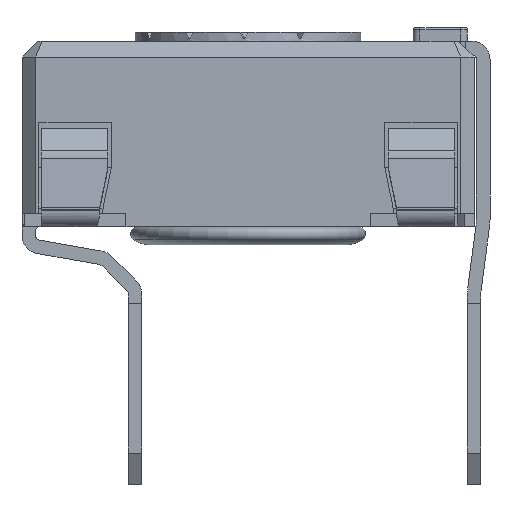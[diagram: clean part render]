
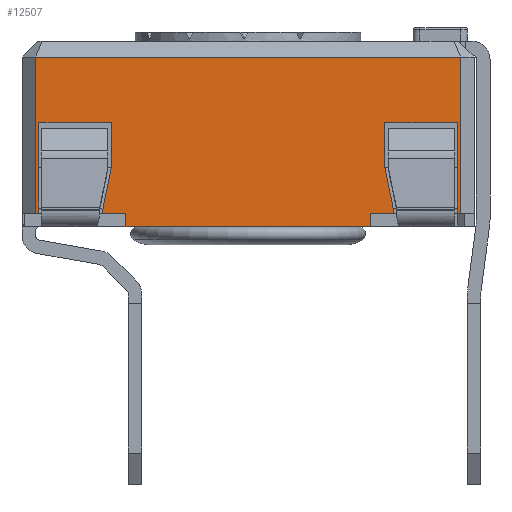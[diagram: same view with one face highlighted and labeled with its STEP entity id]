
A CAD part, left-side view. The second image highlights one B-rep face of the part: STEP entity #12507.
In plain terms, the highlighted planar face has unit normal (-1, 0, 0).
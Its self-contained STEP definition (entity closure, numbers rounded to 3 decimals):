
#995=FACE_OUTER_BOUND('',#1631,.T.);
#1631=EDGE_LOOP('',(#10403,#10404,#10405,#10406,#10407,#10408,#10409,#10410,
#10411,#10412,#10413,#10414,#10415,#10416,#10417,#10418,#10419,#10420));
#2495=LINE('',#18744,#3951);
#2526=LINE('',#18806,#3982);
#2532=LINE('',#18818,#3988);
#2553=LINE('',#18860,#4009);
#2721=LINE('',#19388,#4177);
#2764=LINE('',#19470,#4220);
#2767=LINE('',#19476,#4223);
#2916=LINE('',#19854,#4372);
#2918=LINE('',#19858,#4374);
#2922=LINE('',#19866,#4378);
#2925=LINE('',#19872,#4381);
#2932=LINE('',#19886,#4388);
#2934=LINE('',#19890,#4390);
#2940=LINE('',#19901,#4396);
#2941=LINE('',#19903,#4397);
#2942=LINE('',#19906,#4398);
#2943=LINE('',#19908,#4399);
#2944=LINE('',#19909,#4400);
#3951=VECTOR('',#15211,10.);
#3982=VECTOR('',#15246,10.);
#3988=VECTOR('',#15252,10.);
#4009=VECTOR('',#15275,10.);
#4177=VECTOR('',#15751,10.);
#4220=VECTOR('',#15826,10.);
#4223=VECTOR('',#15835,10.);
#4372=VECTOR('',#16202,10.);
#4374=VECTOR('',#16206,10.);
#4378=VECTOR('',#16212,10.);
#4381=VECTOR('',#16217,10.);
#4388=VECTOR('',#16232,10.);
#4390=VECTOR('',#16236,10.);
#4396=VECTOR('',#16248,10.);
#4397=VECTOR('',#16251,10.);
#4398=VECTOR('',#16254,10.);
#4399=VECTOR('',#16255,10.);
#4400=VECTOR('',#16256,10.);
#5296=VERTEX_POINT('',#18741);
#5297=VERTEX_POINT('',#18743);
#5325=VERTEX_POINT('',#18803);
#5326=VERTEX_POINT('',#18805);
#5331=VERTEX_POINT('',#18815);
#5332=VERTEX_POINT('',#18817);
#5351=VERTEX_POINT('',#18857);
#5352=VERTEX_POINT('',#18859);
#5503=VERTEX_POINT('',#19385);
#5504=VERTEX_POINT('',#19387);
#5623=VERTEX_POINT('',#19852);
#5624=VERTEX_POINT('',#19857);
#5627=VERTEX_POINT('',#19864);
#5629=VERTEX_POINT('',#19871);
#5632=VERTEX_POINT('',#19885);
#5633=VERTEX_POINT('',#19889);
#5636=VERTEX_POINT('',#19905);
#5637=VERTEX_POINT('',#19907);
#6736=EDGE_CURVE('',#5297,#5296,#2495,.T.);
#6767=EDGE_CURVE('',#5326,#5325,#2526,.T.);
#6773=EDGE_CURVE('',#5332,#5331,#2532,.T.);
#6794=EDGE_CURVE('',#5352,#5351,#2553,.T.);
#7040=EDGE_CURVE('',#5504,#5503,#2721,.T.);
#7083=EDGE_CURVE('',#5326,#5503,#2764,.T.);
#7086=EDGE_CURVE('',#5331,#5504,#2767,.T.);
#7272=EDGE_CURVE('',#5325,#5623,#2916,.T.);
#7274=EDGE_CURVE('',#5624,#5332,#2918,.T.);
#7278=EDGE_CURVE('',#5623,#5627,#2922,.T.);
#7281=EDGE_CURVE('',#5629,#5624,#2925,.T.);
#7288=EDGE_CURVE('',#5632,#5629,#2932,.T.);
#7290=EDGE_CURVE('',#5633,#5352,#2934,.T.);
#7296=EDGE_CURVE('',#5627,#5633,#2940,.T.);
#7297=EDGE_CURVE('',#5296,#5632,#2941,.T.);
#7298=EDGE_CURVE('',#5636,#5351,#2942,.T.);
#7299=EDGE_CURVE('',#5637,#5636,#2943,.T.);
#7300=EDGE_CURVE('',#5637,#5297,#2944,.T.);
#10403=ORIENTED_EDGE('',*,*,#7297,.T.);
#10404=ORIENTED_EDGE('',*,*,#7288,.T.);
#10405=ORIENTED_EDGE('',*,*,#7281,.T.);
#10406=ORIENTED_EDGE('',*,*,#7274,.T.);
#10407=ORIENTED_EDGE('',*,*,#6773,.T.);
#10408=ORIENTED_EDGE('',*,*,#7086,.T.);
#10409=ORIENTED_EDGE('',*,*,#7040,.T.);
#10410=ORIENTED_EDGE('',*,*,#7083,.F.);
#10411=ORIENTED_EDGE('',*,*,#6767,.T.);
#10412=ORIENTED_EDGE('',*,*,#7272,.T.);
#10413=ORIENTED_EDGE('',*,*,#7278,.T.);
#10414=ORIENTED_EDGE('',*,*,#7296,.T.);
#10415=ORIENTED_EDGE('',*,*,#7290,.T.);
#10416=ORIENTED_EDGE('',*,*,#6794,.T.);
#10417=ORIENTED_EDGE('',*,*,#7298,.F.);
#10418=ORIENTED_EDGE('',*,*,#7299,.F.);
#10419=ORIENTED_EDGE('',*,*,#7300,.T.);
#10420=ORIENTED_EDGE('',*,*,#6736,.T.);
#11670=PLANE('',#13415);
#12507=ADVANCED_FACE('',(#995),#11670,.T.);
#13415=AXIS2_PLACEMENT_3D('',#19904,#16252,#16253);
#15211=DIRECTION('',(0.,-1.,0.));
#15246=DIRECTION('',(0.,-1.,0.));
#15252=DIRECTION('',(0.,-1.,0.));
#15275=DIRECTION('',(0.,-1.,0.));
#15751=DIRECTION('',(0.,-1.,0.));
#15826=DIRECTION('',(0.,0.,-1.));
#15835=DIRECTION('',(0.,0.,-1.));
#16202=DIRECTION('',(0.,0.199,0.98));
#16206=DIRECTION('',(0.,0.199,-0.98));
#16212=DIRECTION('',(0.,0.,1.));
#16217=DIRECTION('',(0.,0.,-1.));
#16232=DIRECTION('',(0.,-1.,0.));
#16236=DIRECTION('',(0.,0.,-1.));
#16248=DIRECTION('',(0.,-1.,0.));
#16251=DIRECTION('',(0.,0.,1.));
#16252=DIRECTION('center_axis',(-1.,0.,0.));
#16253=DIRECTION('ref_axis',(0.,0.,1.));
#16254=DIRECTION('',(0.,0.,-1.));
#16255=DIRECTION('',(0.,-1.,0.));
#16256=DIRECTION('',(0.,0.,-1.));
#18741=CARTESIAN_POINT('',(-31.348,-8.365,-3.8));
#18743=CARTESIAN_POINT('',(-31.348,-8.29,-3.8));
#18744=CARTESIAN_POINT('',(-31.348,-17.69,-3.8));
#18803=CARTESIAN_POINT('',(-31.348,-16.219,-3.8));
#18805=CARTESIAN_POINT('',(-31.348,-15.69,-3.8));
#18806=CARTESIAN_POINT('',(-31.348,-9.762,-3.8));
#18815=CARTESIAN_POINT('',(-31.348,-10.29,-3.8));
#18817=CARTESIAN_POINT('',(-31.348,-9.762,-3.8));
#18818=CARTESIAN_POINT('',(-31.348,-9.762,-3.8));
#18857=CARTESIAN_POINT('',(-31.348,-17.69,-3.8));
#18859=CARTESIAN_POINT('',(-31.348,-17.615,-3.8));
#18860=CARTESIAN_POINT('',(-31.348,-17.69,-3.8));
#19385=CARTESIAN_POINT('',(-31.348,-15.69,-4.1));
#19387=CARTESIAN_POINT('',(-31.348,-10.29,-4.1));
#19388=CARTESIAN_POINT('',(-31.348,-16.219,-4.1));
#19470=CARTESIAN_POINT('',(-31.348,-15.69,-3.8));
#19476=CARTESIAN_POINT('',(-31.348,-10.29,-3.8));
#19852=CARTESIAN_POINT('',(-31.348,-16.015,-2.8));
#19854=CARTESIAN_POINT('',(-31.348,-16.219,-3.8));
#19857=CARTESIAN_POINT('',(-31.348,-9.965,-2.8));
#19858=CARTESIAN_POINT('',(-31.348,-9.965,-2.8));
#19864=CARTESIAN_POINT('',(-31.348,-16.015,-1.8));
#19866=CARTESIAN_POINT('',(-31.348,-16.015,-2.8));
#19871=CARTESIAN_POINT('',(-31.348,-9.965,-1.8));
#19872=CARTESIAN_POINT('',(-31.348,-9.965,-1.8));
#19885=CARTESIAN_POINT('',(-31.348,-8.365,-1.8));
#19886=CARTESIAN_POINT('',(-31.348,-10.64,-1.8));
#19889=CARTESIAN_POINT('',(-31.348,-17.615,-1.8));
#19890=CARTESIAN_POINT('',(-31.348,-17.615,-1.368));
#19901=CARTESIAN_POINT('',(-31.348,-10.64,-1.8));
#19903=CARTESIAN_POINT('',(-31.348,-8.365,-1.368));
#19904=CARTESIAN_POINT('Origin',(-31.348,-8.29,0.));
#19905=CARTESIAN_POINT('',(-31.348,-17.69,-0.35));
#19906=CARTESIAN_POINT('',(-31.348,-17.69,0.));
#19907=CARTESIAN_POINT('',(-31.348,-8.29,-0.35));
#19908=CARTESIAN_POINT('',(-31.348,-10.64,-0.35));
#19909=CARTESIAN_POINT('',(-31.348,-8.29,0.));
